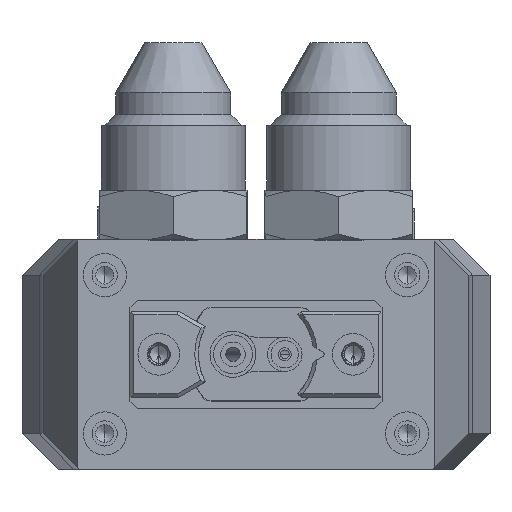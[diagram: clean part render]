
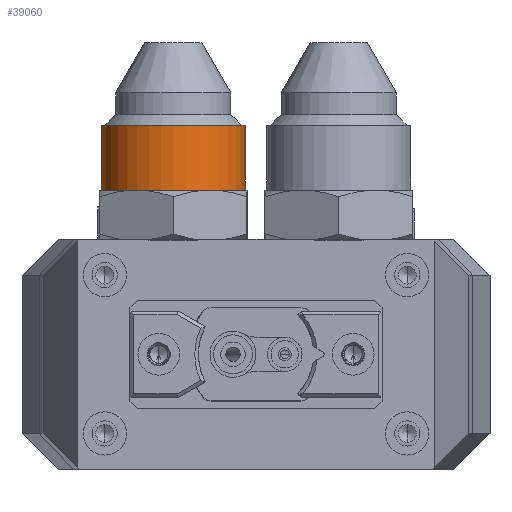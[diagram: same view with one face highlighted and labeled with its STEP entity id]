
A CAD part, front view. The second image highlights one B-rep face of the part: STEP entity #39060.
In plain terms, the highlighted cylindrical face has radius 10 mm (diameter 20 mm), a partial arc.
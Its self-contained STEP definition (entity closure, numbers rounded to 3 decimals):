
#746 = EDGE_LOOP ( 'NONE', ( #12481, #68320, #48650, #38309 ) ) ;
#919 = FACE_OUTER_BOUND ( 'NONE', #746, .T. ) ;
#3330 = EDGE_CURVE ( 'NONE', #25086, #44795, #56181, .T. ) ;
#6273 = DIRECTION ( 'NONE',  ( 1., 0., 0. ) ) ;
#6439 = DIRECTION ( 'NONE',  ( 0., 0., 1. ) ) ;
#8573 = VERTEX_POINT ( 'NONE', #35169 ) ;
#9944 = VECTOR ( 'NONE', #6439, 1000. ) ;
#12481 = ORIENTED_EDGE ( 'NONE', *, *, #63239, .F. ) ;
#12897 = CYLINDRICAL_SURFACE ( 'NONE', #50101, 10. ) ;
#15134 = CARTESIAN_POINT ( 'NONE',  ( 37.484, -124.724, 1041.175 ) ) ;
#17614 = CARTESIAN_POINT ( 'NONE',  ( 47.484, -124.724, 1041.175 ) ) ;
#18261 = AXIS2_PLACEMENT_3D ( 'NONE', #44755, #56013, #6273 ) ;
#18733 = CIRCLE ( 'NONE', #70926, 10. ) ;
#21321 = DIRECTION ( 'NONE',  ( 0., 0., 1. ) ) ;
#22089 = CARTESIAN_POINT ( 'NONE',  ( 57.484, -124.724, 1041.175 ) ) ;
#22902 = CARTESIAN_POINT ( 'NONE',  ( 37.484, -124.724, 1018.903 ) ) ;
#25086 = VERTEX_POINT ( 'NONE', #26638 ) ;
#26638 = CARTESIAN_POINT ( 'NONE',  ( 57.484, -124.724, 1009.903 ) ) ;
#31292 = VECTOR ( 'NONE', #21321, 1000. ) ;
#35169 = CARTESIAN_POINT ( 'NONE',  ( 37.484, -124.724, 1009.903 ) ) ;
#38309 = ORIENTED_EDGE ( 'NONE', *, *, #57455, .T. ) ;
#39060 = ADVANCED_FACE ( 'NONE', ( #919 ), #12897, .T. ) ;
#39196 = DIRECTION ( 'NONE',  ( 1., 0., 0. ) ) ;
#40136 = DIRECTION ( 'NONE',  ( 0., 0., 1. ) ) ;
#44195 = CARTESIAN_POINT ( 'NONE',  ( 57.484, -124.724, 1018.903 ) ) ;
#44755 = CARTESIAN_POINT ( 'NONE',  ( 47.484, -124.724, 1018.903 ) ) ;
#44795 = VERTEX_POINT ( 'NONE', #44195 ) ;
#48650 = ORIENTED_EDGE ( 'NONE', *, *, #3330, .T. ) ;
#49249 = LINE ( 'NONE', #15134, #31292 ) ;
#50101 = AXIS2_PLACEMENT_3D ( 'NONE', #17614, #40136, #57195 ) ;
#50425 = CARTESIAN_POINT ( 'NONE',  ( 47.484, -124.724, 1009.903 ) ) ;
#55365 = CIRCLE ( 'NONE', #18261, 10. ) ;
#56013 = DIRECTION ( 'NONE',  ( 0., 0., -1. ) ) ;
#56181 = LINE ( 'NONE', #22089, #9944 ) ;
#56265 = DIRECTION ( 'NONE',  ( 0., 0., 1. ) ) ;
#57195 = DIRECTION ( 'NONE',  ( 1., 0., 0. ) ) ;
#57455 = EDGE_CURVE ( 'NONE', #44795, #69069, #55365, .T. ) ;
#63239 = EDGE_CURVE ( 'NONE', #8573, #69069, #49249, .T. ) ;
#68320 = ORIENTED_EDGE ( 'NONE', *, *, #68454, .T. ) ;
#68454 = EDGE_CURVE ( 'NONE', #8573, #25086, #18733, .T. ) ;
#69069 = VERTEX_POINT ( 'NONE', #22902 ) ;
#70926 = AXIS2_PLACEMENT_3D ( 'NONE', #50425, #56265, #39196 ) ;
